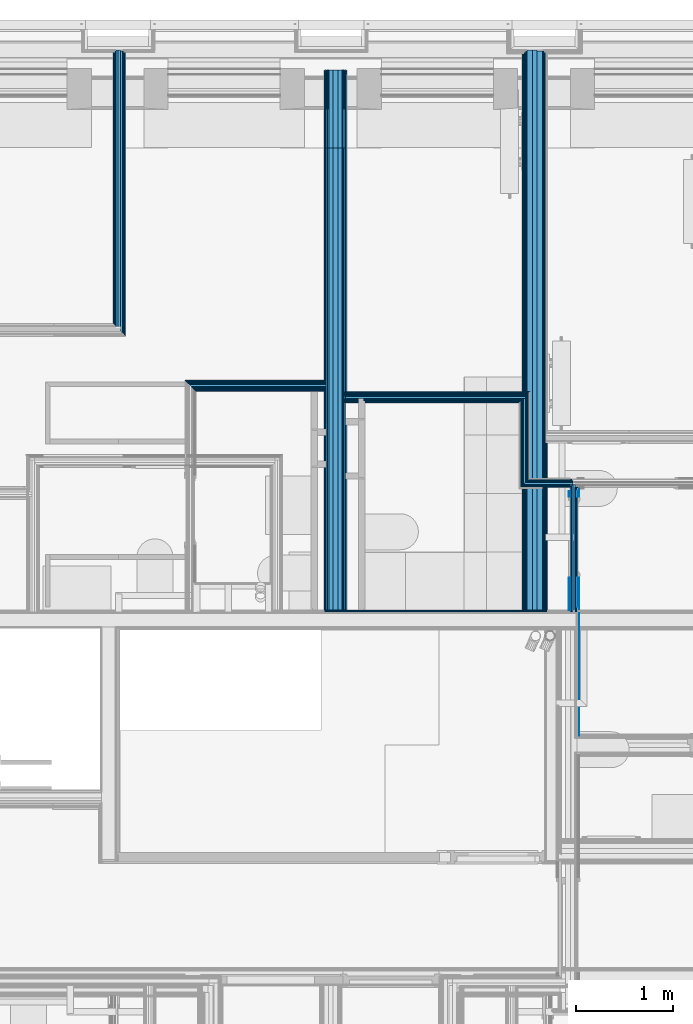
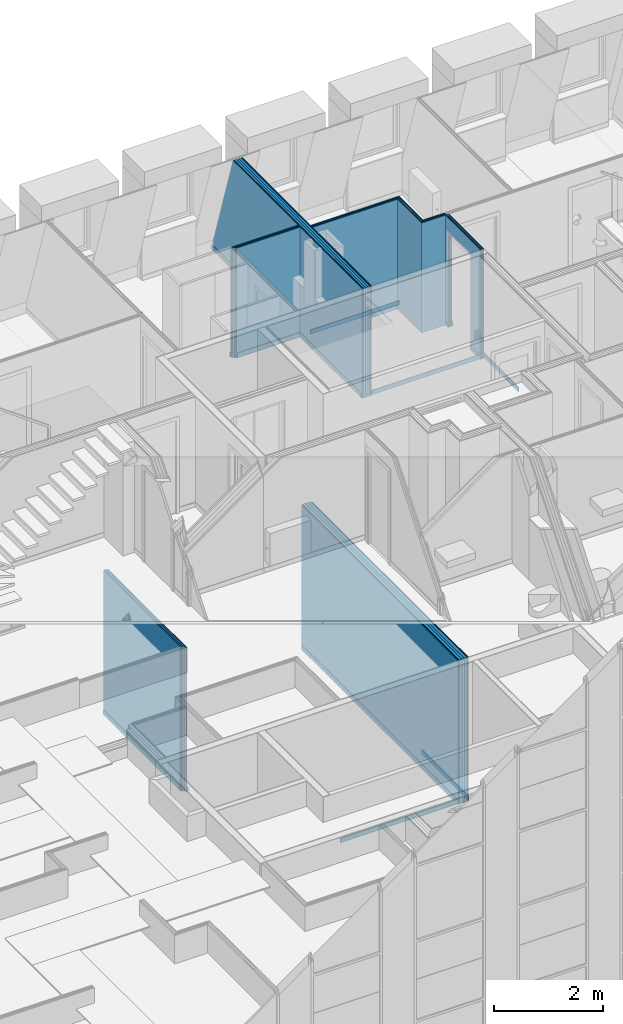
# One storey, part 32 of 169: 60 building element parts, 1 opening, 10 elements without a shape of their own.
"""IFC2X3 building model written with IfcOpenShell, lengths in metres."""

from ifc_helpers import new_model, entity, si_unit, converted_unit, derived_unit, money_unit, direction, frame, frame_2d, origin_with_axes, place, context, subcontext, project, spatial, polyline, rectangle, outline, extrude, clip, halfspace, material, type_object, element, aggregate, save


model = new_model("IFC2X3")

# Units and contexts
model_context = context("Model", 3, precision=1e-05, world=origin_with_axes(), true_north=direction((0.0, 1.0)))
body_context = subcontext(model_context, "Body", "Model", "MODEL_VIEW", scale=1.0)
ifc_project = project(units=[si_unit("LENGTHUNIT", "METRE"), si_unit("AREAUNIT", "SQUARE_METRE"), si_unit("VOLUMEUNIT", "CUBIC_METRE"), si_unit("ABSORBEDDOSEUNIT", "GRAY"), si_unit("AMOUNTOFSUBSTANCEUNIT", "MOLE"), si_unit("DOSEEQUIVALENTUNIT", "SIEVERT"), si_unit("ELECTRICCAPACITANCEUNIT", "FARAD"), si_unit("ELECTRICCHARGEUNIT", "COULOMB"), si_unit("ELECTRICCONDUCTANCEUNIT", "SIEMENS"), si_unit("ELECTRICCURRENTUNIT", "AMPERE"), si_unit("ELECTRICRESISTANCEUNIT", "OHM"), si_unit("ELECTRICVOLTAGEUNIT", "VOLT"), si_unit("ENERGYUNIT", "JOULE"), si_unit("FORCEUNIT", "NEWTON"), si_unit("FREQUENCYUNIT", "HERTZ"), si_unit("ILLUMINANCEUNIT", "LUX"), si_unit("INDUCTANCEUNIT", "HENRY"), si_unit("LUMINOUSFLUXUNIT", "LUMEN"), si_unit("LUMINOUSINTENSITYUNIT", "CANDELA"), si_unit("MAGNETICFLUXDENSITYUNIT", "TESLA"), si_unit("MAGNETICFLUXUNIT", "WEBER"), si_unit("MASSUNIT", "GRAM"), converted_unit("PLANEANGLEUNIT", "degree", entity("IfcReal", 0.0174532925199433), si_unit("PLANEANGLEUNIT", "RADIAN"), dimensions=[0, 0, 0, 0, 0, 0, 0]), si_unit("POWERUNIT", "WATT"), si_unit("PRESSUREUNIT", "PASCAL"), si_unit("RADIOACTIVITYUNIT", "BECQUEREL"), si_unit("SOLIDANGLEUNIT", "STERADIAN"), si_unit("THERMODYNAMICTEMPERATUREUNIT", "KELVIN"), si_unit("TIMEUNIT", "SECOND"), derived_unit("ACCELERATIONUNIT", [(si_unit("LENGTHUNIT", "METRE"), 1), (si_unit("TIMEUNIT", "SECOND"), -2)]), derived_unit("ANGULARVELOCITYUNIT", [(converted_unit("PLANEANGLEUNIT", "degree", entity("IfcReal", 0.0174532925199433), si_unit("PLANEANGLEUNIT", "RADIAN"), dimensions=[0, 0, 0, 0, 0, 0, 0]), 1), (si_unit("TIMEUNIT", "SECOND"), -1)]), derived_unit("CURVATUREUNIT", [(converted_unit("PLANEANGLEUNIT", "degree", entity("IfcReal", 0.0174532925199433), si_unit("PLANEANGLEUNIT", "RADIAN"), dimensions=[0, 0, 0, 0, 0, 0, 0]), 1), (si_unit("LENGTHUNIT", "METRE"), -1)]), derived_unit("DYNAMICVISCOSITYUNIT", [(si_unit("PRESSUREUNIT", "PASCAL"), 1), (si_unit("TIMEUNIT", "SECOND"), 1)]), derived_unit("HEATFLUXDENSITYUNIT", [(si_unit("POWERUNIT", "WATT"), 1), (si_unit("LENGTHUNIT", "METRE"), -2)]), derived_unit("HEATINGVALUEUNIT", [(si_unit("ENERGYUNIT", "JOULE"), 1), (si_unit("MASSUNIT", "GRAM"), -1)]), derived_unit("INTEGERCOUNTRATEUNIT", [(si_unit("TIMEUNIT", "SECOND"), -1)]), derived_unit("IONCONCENTRATIONUNIT", [(si_unit("MASSUNIT", "GRAM"), 1), (si_unit("VOLUMEUNIT", "CUBIC_METRE"), -1)]), derived_unit("ISOTHERMALMOISTURECAPACITYUNIT", [(si_unit("VOLUMEUNIT", "CUBIC_METRE"), 1), (si_unit("MASSUNIT", "GRAM"), -1)]), derived_unit("KINEMATICVISCOSITYUNIT", [(si_unit("AREAUNIT", "SQUARE_METRE"), 1), (si_unit("TIMEUNIT", "SECOND"), -1)]), derived_unit("LINEARFORCEUNIT", [(si_unit("FORCEUNIT", "NEWTON"), 1), (si_unit("LENGTHUNIT", "METRE"), -1)]), derived_unit("LINEARMOMENTUNIT", [(si_unit("FORCEUNIT", "NEWTON"), 1), (si_unit("LENGTHUNIT", "METRE"), -1)]), derived_unit("LINEARSTIFFNESSUNIT", [(si_unit("FORCEUNIT", "NEWTON"), 1), (si_unit("LENGTHUNIT", "METRE"), -1)]), derived_unit("LINEARVELOCITYUNIT", [(si_unit("LENGTHUNIT", "METRE"), 1), (si_unit("TIMEUNIT", "SECOND"), -1)]), derived_unit("LUMINOUSINTENSITYDISTRIBUTIONUNIT", [(si_unit("LUMINOUSINTENSITYUNIT", "CANDELA"), 1), (si_unit("LUMINOUSFLUXUNIT", "LUMEN"), -1)]), derived_unit("MASSDENSITYUNIT", [(si_unit("MASSUNIT", "GRAM"), 1), (si_unit("VOLUMEUNIT", "CUBIC_METRE"), -1)]), derived_unit("MASSFLOWRATEUNIT", [(si_unit("MASSUNIT", "GRAM"), 1), (si_unit("TIMEUNIT", "SECOND"), -1)]), derived_unit("MASSPERLENGTHUNIT", [(si_unit("MASSUNIT", "GRAM"), 1), (si_unit("LENGTHUNIT", "METRE"), -1)]), derived_unit("MODULUSOFELASTICITYUNIT", [(si_unit("FORCEUNIT", "NEWTON"), 1), (si_unit("AREAUNIT", "SQUARE_METRE"), -1)]), derived_unit("MODULUSOFLINEARSUBGRADEREACTIONUNIT", [(si_unit("FORCEUNIT", "NEWTON"), 1), (si_unit("LENGTHUNIT", "METRE"), -2)]), derived_unit("MODULUSOFROTATIONALSUBGRADEREACTIONUNIT", [(si_unit("FORCEUNIT", "NEWTON"), 1), (si_unit("LENGTHUNIT", "METRE"), 1)]), derived_unit("MODULUSOFSUBGRADEREACTIONUNIT", [(si_unit("FORCEUNIT", "NEWTON"), 1), (si_unit("VOLUMEUNIT", "CUBIC_METRE"), -1)]), derived_unit("MOISTUREDIFFUSIVITYUNIT", [(si_unit("VOLUMEUNIT", "CUBIC_METRE"), 1), (si_unit("TIMEUNIT", "SECOND"), -1)]), derived_unit("MOLECULARWEIGHTUNIT", [(si_unit("MASSUNIT", "GRAM"), 1), (si_unit("AMOUNTOFSUBSTANCEUNIT", "MOLE"), -1)]), derived_unit("PLANARFORCEUNIT", [(si_unit("FORCEUNIT", "NEWTON"), 1), (si_unit("LENGTHUNIT", "METRE"), -2)]), derived_unit("ROTATIONALFREQUENCYUNIT", [(si_unit("TIMEUNIT", "SECOND"), -1)]), derived_unit("ROTATIONALMASSUNIT", [(si_unit("MASSUNIT", "GRAM"), 1), (si_unit("LENGTHUNIT", "METRE"), 2)]), derived_unit("ROTATIONALSTIFFNESSUNIT", [(si_unit("FORCEUNIT", "NEWTON"), 1), (si_unit("LENGTHUNIT", "METRE"), 1), (converted_unit("PLANEANGLEUNIT", "degree", entity("IfcReal", 0.0174532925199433), si_unit("PLANEANGLEUNIT", "RADIAN"), dimensions=[0, 0, 0, 0, 0, 0, 0]), -1)]), derived_unit("SECTIONAREAINTEGRALUNIT", [(si_unit("LENGTHUNIT", "METRE"), 5)]), derived_unit("SECTIONMODULUSUNIT", [(si_unit("LENGTHUNIT", "METRE"), 3)]), derived_unit("SHEARMODULUSUNIT", [(si_unit("FORCEUNIT", "NEWTON"), 1), (si_unit("AREAUNIT", "SQUARE_METRE"), -1)]), derived_unit("SOUNDPOWERUNIT", [(si_unit("ENERGYUNIT", "JOULE"), 1), (si_unit("TIMEUNIT", "SECOND"), -1)]), derived_unit("SPECIFICHEATCAPACITYUNIT", [(si_unit("FORCEUNIT", "NEWTON"), 1), (si_unit("MASSUNIT", "GRAM"), -1), (si_unit("THERMODYNAMICTEMPERATUREUNIT", "KELVIN"), -1)]), derived_unit("TEMPERATUREGRADIENTUNIT", [(si_unit("THERMODYNAMICTEMPERATUREUNIT", "KELVIN"), 1), (si_unit("LENGTHUNIT", "METRE"), -1)]), derived_unit("THERMALADMITTANCEUNIT", [(si_unit("POWERUNIT", "WATT"), 1), (si_unit("AREAUNIT", "SQUARE_METRE"), -1), (si_unit("THERMODYNAMICTEMPERATUREUNIT", "KELVIN"), -1)]), derived_unit("THERMALCONDUCTANCEUNIT", [(si_unit("POWERUNIT", "WATT"), 1), (si_unit("LENGTHUNIT", "METRE"), -1), (si_unit("THERMODYNAMICTEMPERATUREUNIT", "KELVIN"), -1)]), derived_unit("THERMALEXPANSIONCOEFFICIENTUNIT", [(si_unit("THERMODYNAMICTEMPERATUREUNIT", "KELVIN"), -1)]), derived_unit("THERMALRESISTANCEUNIT", [(si_unit("AREAUNIT", "SQUARE_METRE"), 1), (si_unit("POWERUNIT", "WATT"), -1)]), derived_unit("THERMALTRANSMITTANCEUNIT", [(si_unit("POWERUNIT", "WATT"), 1), (si_unit("AREAUNIT", "SQUARE_METRE"), -1), (si_unit("THERMODYNAMICTEMPERATUREUNIT", "KELVIN"), -1)]), derived_unit("TORQUEUNIT", [(si_unit("FORCEUNIT", "NEWTON"), 1), (si_unit("LENGTHUNIT", "METRE"), 1)]), derived_unit("VAPORPERMEABILITYUNIT", [(si_unit("MASSUNIT", "GRAM"), 1), (si_unit("TIMEUNIT", "SECOND"), -1)]), derived_unit("VOLUMETRICFLOWRATEUNIT", [(si_unit("VOLUMEUNIT", "CUBIC_METRE"), 1), (si_unit("TIMEUNIT", "SECOND"), -1)]), derived_unit("WARPINGCONSTANTUNIT", [(si_unit("LENGTHUNIT", "METRE"), 6)]), derived_unit("WARPINGMOMENTUNIT", [(si_unit("FORCEUNIT", "NEWTON"), 1), (si_unit("LENGTHUNIT", "METRE"), 2)]), money_unit("GBP")], contexts=[model_context])

# Site, building, storey
site_placement = place(None, origin_with_axes())
site = spatial("IfcSite", under=ifc_project, at=site_placement, Name="Site", CompositionType="ELEMENT")
building_placement = place(site_placement, origin_with_axes())
building = spatial("IfcBuilding", under=site, at=building_placement, Name="Building01", CompositionType="ELEMENT")
storey_placement = place(building_placement, frame((0.0, 0.0, 5.15), z_axis=(0.0, 0.0, 1.0), x_axis=(1.0, 0.0, 0.0)))
storey = spatial("IfcBuildingStorey", under=building, at=storey_placement, Name="1F", CompositionType="ELEMENT", Elevation=5.15)

# Wall, building element part
wall_type_1 = type_object("IfcWallType", Name="SHE_A-Walls_Type03a_BlockworkWall_170mm", PredefinedType="NOTDEFINED")
wall_1_placement = place(storey_placement, frame((17.985, 8.805, 0.0), z_axis=(0.0, 0.0, 1.0), x_axis=(-1.0, 0.0, 0.0)))
wall_1 = element("IfcWall", 1, at=wall_1_placement, inside=storey, type_object=wall_type_1, Name="4B", ObjectType="SHE_A-Walls_Type03a_BlockworkWall_170mm")
ifc_material_1 = material(Name="A_BSUK_Walls_Timber")
building_element_part_1_placement = place(wall_1_placement, origin_with_axes())
building_element_part_1 = element("IfcBuildingElementPart", 2, at=building_element_part_1_placement, material=ifc_material_1, Name="2", context=body_context, shape_type="SweptSolid", body=[
    extrude(rectangle(XDim=2.494547, YDim=0.015, at=frame_2d((3.749142, -0.0225), x_axis=(-1.0, 0.0))), frame((0.0, 0.0, 0.015), z_axis=(0.0, 0.0, 1.0), x_axis=(1.0, 0.0, 0.0)), (0.0, 0.0, 1.0), 0.1),
])
aggregate(wall_1, [building_element_part_1])

# Wall, building element parts
wall_type_2 = type_object("IfcWallType", Name="SHE_A-Walls_Type01c_Partywall_225mm_twin_tall", PredefinedType="NOTDEFINED")
wall_2_placement = place(storey_placement, frame((15.620132, 8.82, 0.0), z_axis=(0.0, 0.0, 1.0), x_axis=(0.0, 1.0, 0.0)))
wall_2 = element("IfcWall", 3, at=wall_2_placement, inside=storey, type_object=wall_type_2, Name="1C", ObjectType="SHE_A-Walls_Type01c_Partywall_225mm_twin_tall")
placement_1 = place(wall_2_placement, origin_with_axes())
building_element_part_2 = element("IfcBuildingElementPart", 4, at=placement_1, material=ifc_material_1, Name="1", context=body_context, shape_type="SweptSolid", body=[
    extrude(rectangle(XDim=1.735, YDim=0.015, at=frame_2d((0.8675, -0.0955), x_axis=(-1.0, 0.0))), frame((0.0, 0.0, 0.015), z_axis=(0.0, 0.0, 1.0), x_axis=(1.0, 0.0, 0.0)), (0.0, 0.0, 1.0), 0.1),
])
ifc_material_2 = material(Name="A_BSUK_WallInternal_Finishes_Plasterboard")
building_element_part_3 = element("IfcBuildingElementPart", 5, at=placement_1, material=ifc_material_2, Name="3", context=body_context, shape_type="SweptSolid", body=[
    extrude(rectangle(XDim=5.747, YDim=0.015, at=frame_2d((2.8735, -0.0805), x_axis=(-1.0, 0.0))), origin_with_axes(), (0.0, 0.0, 1.0), 3.24),
])
building_element_part_4 = element("IfcBuildingElementPart", 6, at=placement_1, material=ifc_material_2, Name="4", context=body_context, shape_type="SweptSolid", body=[
    extrude(rectangle(XDim=5.762, YDim=0.015, at=frame_2d((2.881, -0.0655), x_axis=(-1.0, 0.0))), origin_with_axes(), (0.0, 0.0, 1.0), 3.24),
])
ifc_material_3 = material(Name="Air Cavity")
building_element_part_5 = element("IfcBuildingElementPart", 7, at=placement_1, material=ifc_material_3, Name="5", context=body_context, shape_type="SweptSolid", body=[
    extrude(rectangle(XDim=5.762, YDim=0.058, at=frame_2d((2.881, -0.029), x_axis=(-1.0, 0.0))), origin_with_axes(), (0.0, 0.0, 1.0), 3.24),
])
ifc_material_4 = material(Name="A_BSUK_Insulation")
building_element_part_6 = element("IfcBuildingElementPart", 8, at=placement_1, material=ifc_material_4, Name="6", context=body_context, shape_type="SweptSolid", body=[
    extrude(rectangle(XDim=5.774, YDim=0.05, at=frame_2d((2.887, 0.025), x_axis=(-1.0, 0.0))), origin_with_axes(), (0.0, 0.0, 1.0), 3.24),
])
building_element_part_7 = element("IfcBuildingElementPart", 9, at=placement_1, material=ifc_material_3, Name="7", context=body_context, shape_type="SweptSolid", body=[
    extrude(rectangle(XDim=5.774, YDim=0.057, at=frame_2d((2.887, 0.0785), x_axis=(-1.0, 0.0))), origin_with_axes(), (0.0, 0.0, 1.0), 3.24),
])
building_element_part_8 = element("IfcBuildingElementPart", 10, at=placement_1, material=ifc_material_2, Name="8", context=body_context, shape_type="SweptSolid", body=[
    extrude(rectangle(XDim=5.762, YDim=0.015, at=frame_2d((2.881, 0.1145), x_axis=(-1.0, 0.0))), origin_with_axes(), (0.0, 0.0, 1.0), 3.24),
])
building_element_part_9 = element("IfcBuildingElementPart", 11, at=placement_1, material=ifc_material_2, Name="9", context=body_context, shape_type="SweptSolid", body=[
    extrude(rectangle(XDim=5.747, YDim=0.015, at=frame_2d((2.8735, 0.1295), x_axis=(-1.0, 0.0))), origin_with_axes(), (0.0, 0.0, 1.0), 3.24),
])
building_element_part_10 = element("IfcBuildingElementPart", 12, at=placement_1, material=ifc_material_1, Name="10", context=body_context, shape_type="SweptSolid", body=[
    extrude(rectangle(XDim=5.717, YDim=0.015, at=frame_2d((2.8735, 0.1445), x_axis=(-1.0, 0.0))), frame((0.0, 0.0, 0.015), z_axis=(0.0, 0.0, 1.0), x_axis=(1.0, 0.0, 0.0)), (0.0, 0.0, 1.0), 0.1),
])
aggregate(wall_2, [building_element_part_2, building_element_part_3, building_element_part_4, building_element_part_5, building_element_part_6, building_element_part_7, building_element_part_8, building_element_part_9, building_element_part_10])

wall_type_3 = type_object("IfcWallType", Name="SHE_A-Walls_Type05a_Partition_95mm_tall", PredefinedType="NOTDEFINED")
wall_3_placement = place(storey_placement, frame((11.34, 11.728124, 0.0), z_axis=(0.0, 0.0, 1.0), x_axis=(0.0, 1.0, 0.0)))
wall_3 = element("IfcWall", 13, at=wall_3_placement, inside=storey, type_object=wall_type_3, Name="5A", ObjectType="SHE_A-Walls_Type05a_Partition_95mm_tall")
placement_2 = place(wall_3_placement, origin_with_axes())
building_element_part_11 = element("IfcBuildingElementPart", 14, at=placement_2, material=ifc_material_1, Name="1", context=body_context, shape_type="SweptSolid", body=[
    extrude(outline(polyline([(2.838876, -0.035), (-0.06, -0.035), (-0.075, -0.05), (2.838876, -0.05), (2.838876, -0.035)])), frame((0.0, 0.0, 0.015), z_axis=(0.0, 0.0, 1.0), x_axis=(1.0, 0.0, 0.0)), (0.0, 0.0, 1.0), 0.1),
])
building_element_part_12 = element("IfcBuildingElementPart", 15, at=placement_2, material=ifc_material_2, Name="2", context=body_context, shape_type="SweptSolid", body=[
    extrude(outline(polyline([(2.853876, -0.023), (-0.048, -0.023), (-0.06, -0.035), (2.853876, -0.035), (2.853876, -0.023)])), origin_with_axes(), (0.0, 0.0, 1.0), 3.24),
])
building_element_part_13 = element("IfcBuildingElementPart", 16, at=placement_2, material=ifc_material_3, Name="3", context=body_context, shape_type="SweptSolid", body=[
    extrude(outline(polyline([(2.853876, 0.0), (-0.025, 0.0), (-0.048, -0.023), (2.853876, -0.023), (2.853876, 0.0)])), origin_with_axes(), (0.0, 0.0, 1.0), 3.24),
])
building_element_part_14 = element("IfcBuildingElementPart", 17, at=placement_2, material=ifc_material_4, Name="4", context=body_context, shape_type="SweptSolid", body=[
    extrude(rectangle(XDim=2.865876, YDim=0.025, at=frame_2d((1.432938, 0.0125), x_axis=(-1.0, 0.0))), origin_with_axes(), (0.0, 0.0, 1.0), 3.24),
])
building_element_part_15 = element("IfcBuildingElementPart", 18, at=placement_2, material=ifc_material_3, Name="5", context=body_context, shape_type="SweptSolid", body=[
    extrude(rectangle(XDim=2.865876, YDim=0.023, at=frame_2d((1.432938, 0.0365), x_axis=(-1.0, 0.0))), origin_with_axes(), (0.0, 0.0, 1.0), 3.24),
])
building_element_part_16 = element("IfcBuildingElementPart", 19, at=placement_2, material=ifc_material_2, Name="6", context=body_context, shape_type="SweptSolid", body=[
    extrude(outline(polyline([(2.853876, 0.06), (0.035, 0.06), (0.023, 0.048), (2.853876, 0.048), (2.853876, 0.06)])), origin_with_axes(), (0.0, 0.0, 1.0), 3.24),
])
building_element_part_17 = element("IfcBuildingElementPart", 20, at=placement_2, material=ifc_material_1, Name="7", context=body_context, shape_type="SweptSolid", body=[
    extrude(outline(polyline([(2.838876, 0.075), (0.05, 0.075), (0.035, 0.06), (2.838876, 0.06), (2.838876, 0.075)])), frame((0.0, 0.0, 0.015), z_axis=(0.0, 0.0, 1.0), x_axis=(1.0, 0.0, 0.0)), (0.0, 0.0, 1.0), 0.1),
])
aggregate(wall_3, [building_element_part_11, building_element_part_12, building_element_part_13, building_element_part_14, building_element_part_15, building_element_part_16, building_element_part_17])

wall_type_4 = type_object("IfcWallType", Name="SHE_A-Walls_Type05b_Partition_80mm", PredefinedType="NOTDEFINED")
wall_4_placement = place(storey_placement, frame((13.45, 11.156849, 9.83), z_axis=(0.0, 0.0, 1.0), x_axis=(-1.0, 0.0, 0.0)))
wall_4 = element("IfcWall", 21, at=wall_4_placement, inside=storey, type_object=wall_type_4, Name="5B", ObjectType="SHE_A-Walls_Type05b_Partition_80mm")
placement_3 = place(wall_4_placement, origin_with_axes())
building_element_part_18 = element("IfcBuildingElementPart", 22, at=placement_3, material=ifc_material_1, Name="1", context=body_context, shape_type="SweptSolid", body=[
    extrude(outline(polyline([(1.432619, -0.027), (0.015, -0.027), (0.015, -0.042), (1.447619, -0.042), (1.432619, -0.027)])), frame((0.0, 0.0, 0.015), z_axis=(0.0, 0.0, 1.0), x_axis=(1.0, 0.0, 0.0)), (0.0, 0.0, 1.0), 0.1),
])
building_element_part_19 = element("IfcBuildingElementPart", 23, at=placement_3, material=ifc_material_2, Name="2", context=body_context, shape_type="SweptSolid", body=[
    extrude(outline(polyline([(1.417619, -0.012), (0.0, -0.012), (0.0, -0.027), (1.432619, -0.027), (1.417619, -0.012)])), origin_with_axes(), (0.0, 0.0, 1.0), 2.468),
])
building_element_part_20 = element("IfcBuildingElementPart", 24, at=placement_3, material=ifc_material_3, Name="3", context=body_context, shape_type="SweptSolid", body=[
    extrude(outline(polyline([(1.405619, 0.0), (0.0, 0.0), (0.0, -0.012), (1.417619, -0.012), (1.405619, 0.0)])), origin_with_axes(), (0.0, 0.0, 1.0), 2.468),
])
building_element_part_21 = element("IfcBuildingElementPart", 25, at=placement_3, material=ifc_material_4, Name="4", context=body_context, shape_type="SweptSolid", body=[
    extrude(outline(polyline([(1.380619, 0.025), (0.0, 0.025), (0.0, 0.0), (1.405619, 0.0), (1.380619, 0.025)])), origin_with_axes(), (0.0, 0.0, 1.0), 2.468),
])
building_element_part_22 = element("IfcBuildingElementPart", 26, at=placement_3, material=ifc_material_3, Name="5", context=body_context, shape_type="SweptSolid", body=[
    extrude(outline(polyline([(1.367619, 0.038), (0.0, 0.038), (0.0, 0.025), (1.380619, 0.025), (1.367619, 0.038)])), origin_with_axes(), (0.0, 0.0, 1.0), 2.468),
])
building_element_part_23 = element("IfcBuildingElementPart", 27, at=placement_3, material=ifc_material_2, Name="6", context=body_context, shape_type="SweptSolid", body=[
    extrude(outline(polyline([(1.352619, 0.053), (0.0, 0.053), (0.0, 0.038), (1.367619, 0.038), (1.352619, 0.053)])), origin_with_axes(), (0.0, 0.0, 1.0), 2.468),
])
building_element_part_24 = element("IfcBuildingElementPart", 28, at=placement_3, material=ifc_material_1, Name="7", context=body_context, shape_type="SweptSolid", body=[
    extrude(outline(polyline([(1.337619, 0.068), (0.015, 0.068), (0.015, 0.053), (1.352619, 0.053), (1.337619, 0.068)])), frame((0.0, 0.0, 0.015), z_axis=(0.0, 0.0, 1.0), x_axis=(1.0, 0.0, 0.0)), (0.0, 0.0, 1.0), 0.1),
])
aggregate(wall_4, [building_element_part_18, building_element_part_19, building_element_part_20, building_element_part_21, building_element_part_22, building_element_part_23, building_element_part_24])

wall_5_placement = place(storey_placement, frame((15.476998, 10.126939, 9.83), z_axis=(0.0, 0.0, 1.0), x_axis=(1.0, 0.0, 0.0)))
wall_5 = element("IfcWall", 29, at=wall_5_placement, inside=storey, type_object=wall_type_4, Name="5B", ObjectType="SHE_A-Walls_Type05b_Partition_80mm")
placement_4 = place(wall_5_placement, origin_with_axes())
building_element_part_25 = element("IfcBuildingElementPart", 30, at=placement_4, material=ifc_material_2, Name="2", context=body_context, shape_type="SweptSolid", body=[
    extrude(outline(polyline([(0.481442, -0.012), (-0.012, -0.012), (-0.027, -0.027), (0.481442, -0.027), (0.481442, -0.012)])), origin_with_axes(), (0.0, 0.0, 1.0), 2.468),
])
building_element_part_26 = element("IfcBuildingElementPart", 31, at=placement_4, material=ifc_material_3, Name="3", context=body_context, shape_type="SweptSolid", body=[
    extrude(outline(polyline([(0.481442, 0.0), (0.0, 0.0), (-0.012, -0.012), (0.481442, -0.012), (0.481442, 0.0)])), origin_with_axes(), (0.0, 0.0, 1.0), 2.468),
])
building_element_part_27 = element("IfcBuildingElementPart", 32, at=placement_4, material=ifc_material_4, Name="4", context=body_context, shape_type="SweptSolid", body=[
    extrude(outline(polyline([(0.509442, 0.025), (0.025, 0.025), (0.0, 0.0), (0.509442, 0.0), (0.509442, 0.025)])), origin_with_axes(), (0.0, 0.0, 1.0), 2.468),
])
building_element_part_28 = element("IfcBuildingElementPart", 33, at=placement_4, material=ifc_material_3, Name="5", context=body_context, shape_type="SweptSolid", body=[
    extrude(outline(polyline([(0.509442, 0.038), (0.038, 0.038), (0.025, 0.025), (0.509442, 0.025), (0.509442, 0.038)])), origin_with_axes(), (0.0, 0.0, 1.0), 2.468),
])
building_element_part_29 = element("IfcBuildingElementPart", 34, at=placement_4, material=ifc_material_2, Name="6", context=body_context, shape_type="SweptSolid", body=[
    extrude(outline(polyline([(0.496442, 0.053), (0.053, 0.053), (0.038, 0.038), (0.496442, 0.038), (0.496442, 0.053)])), origin_with_axes(), (0.0, 0.0, 1.0), 2.468),
])
aggregate(wall_5, [building_element_part_25, building_element_part_26, building_element_part_27, building_element_part_28, building_element_part_29])

wall_type_5 = type_object("IfcWallType", Name="SHE_A-Walls_Type01d_Partywall_200mm_twin", PredefinedType="NOTDEFINED")
wall_6_placement = place(storey_placement, frame((13.575, 8.82, 9.83), z_axis=(0.0, 0.0, 1.0), x_axis=(0.0, 1.0, 0.0)))
wall_6 = element("IfcWall", 35, at=wall_6_placement, inside=storey, type_object=wall_type_5, Name="1D", ObjectType="SHE_A-Walls_Type01d_Partywall_200mm_twin")
placement_5 = place(wall_6_placement, origin_with_axes())
building_element_part_30 = element("IfcBuildingElementPart", 36, at=placement_5, material=ifc_material_1, Name="1", context=body_context, shape_type="Clipping", body=[
    clip(extrude(rectangle(XDim=5.561784, YDim=0.015, at=frame_2d((2.780892, -0.0825), x_axis=(-1.0, 0.0))), frame((0.0, 0.0, 0.015), z_axis=(0.0, 0.0, 1.0), x_axis=(1.0, 0.0, 0.0)), (0.0, 0.0, 1.0), 0.1), halfspace(frame((5.035089, 0.0, 1.636), z_axis=(-0.95105652, 0.0, -0.30901699), x_axis=(0.0, -1.0, 0.0)), True)),
])
building_element_part_31 = element("IfcBuildingElementPart", 37, at=placement_5, material=ifc_material_2, Name="2", context=body_context, shape_type="Clipping", body=[
    clip(extrude(rectangle(XDim=5.566658, YDim=0.015, at=frame_2d((2.783329, -0.0675), x_axis=(-1.0, 0.0))), origin_with_axes(), (0.0, 0.0, 1.0), 2.468), halfspace(frame((5.035089, 0.0, 1.636), z_axis=(-0.95105652, 0.0, -0.30901699), x_axis=(0.0, -1.0, 0.0)), True)),
])
building_element_part_32 = element("IfcBuildingElementPart", 38, at=placement_5, material=ifc_material_2, Name="3", context=body_context, shape_type="Clipping", body=[
    clip(extrude(rectangle(XDim=5.566658, YDim=0.015, at=frame_2d((2.783329, -0.0525), x_axis=(-1.0, 0.0))), origin_with_axes(), (0.0, 0.0, 1.0), 2.468), halfspace(frame((5.035089, 0.0, 1.636), z_axis=(-0.95105652, 0.0, -0.30901699), x_axis=(0.0, -1.0, 0.0)), True)),
])
building_element_part_33 = element("IfcBuildingElementPart", 39, at=placement_5, material=ifc_material_3, Name="4", context=body_context, shape_type="Clipping", body=[
    clip(extrude(rectangle(XDim=5.566658, YDim=0.045, at=frame_2d((2.783329, -0.0225), x_axis=(-1.0, 0.0))), origin_with_axes(), (0.0, 0.0, 1.0), 2.468), halfspace(frame((5.035089, 0.0, 1.636), z_axis=(-0.95105652, 0.0, -0.30901699), x_axis=(0.0, -1.0, 0.0)), True)),
])
building_element_part_34 = element("IfcBuildingElementPart", 40, at=placement_5, material=ifc_material_4, Name="5", context=body_context, shape_type="Clipping", body=[
    clip(extrude(rectangle(XDim=5.566658, YDim=0.05, at=frame_2d((2.783329, 0.025), x_axis=(-1.0, 0.0))), origin_with_axes(), (0.0, 0.0, 1.0), 2.468), halfspace(frame((5.035089, 0.0, 1.636), z_axis=(-0.95105652, 0.0, -0.30901699), x_axis=(0.0, -1.0, 0.0)), True)),
])
building_element_part_35 = element("IfcBuildingElementPart", 41, at=placement_5, material=ifc_material_3, Name="6", context=body_context, shape_type="Clipping", body=[
    clip(extrude(rectangle(XDim=5.566658, YDim=0.045, at=frame_2d((2.783329, 0.0725), x_axis=(-1.0, 0.0))), origin_with_axes(), (0.0, 0.0, 1.0), 2.468), halfspace(frame((5.035089, 0.0, 1.636), z_axis=(-0.95105652, 0.0, -0.30901699), x_axis=(0.0, -1.0, 0.0)), True)),
])
building_element_part_36 = element("IfcBuildingElementPart", 42, at=placement_5, material=ifc_material_2, Name="7", context=body_context, shape_type="Clipping", body=[
    clip(extrude(rectangle(XDim=5.566658, YDim=0.015, at=frame_2d((2.783329, 0.1025), x_axis=(-1.0, 0.0))), origin_with_axes(), (0.0, 0.0, 1.0), 2.468), halfspace(frame((5.035089, 0.0, 1.636), z_axis=(-0.95105652, 0.0, -0.30901699), x_axis=(0.0, -1.0, 0.0)), True)),
])
building_element_part_37 = element("IfcBuildingElementPart", 43, at=placement_5, material=ifc_material_2, Name="8", context=body_context, shape_type="Clipping", body=[
    clip(extrude(rectangle(XDim=5.566658, YDim=0.015, at=frame_2d((2.783329, 0.1175), x_axis=(-1.0, 0.0))), origin_with_axes(), (0.0, 0.0, 1.0), 2.468), halfspace(frame((5.035089, 0.0, 1.636), z_axis=(-0.95105652, 0.0, -0.30901699), x_axis=(0.0, -1.0, 0.0)), True)),
])
building_element_part_38 = element("IfcBuildingElementPart", 44, at=placement_5, material=ifc_material_1, Name="9", context=body_context, shape_type="SweptSolid", body=[
    extrude(rectangle(XDim=2.244677, YDim=0.015, at=frame_2d((1.161511, 0.1325), x_axis=(-1.0, 0.0))), frame((0.0, 0.0, 0.015), z_axis=(0.0, 0.0, 1.0), x_axis=(1.0, 0.0, 0.0)), (0.0, 0.0, 1.0), 0.1),
])
building_element_part_39 = element("IfcBuildingElementPart", 45, at=placement_5, material=ifc_material_1, Name="10", context=body_context, shape_type="Clipping", body=[
    clip(extrude(rectangle(XDim=5.561784, YDim=0.015, at=frame_2d((2.780892, 0.1325), x_axis=(-1.0, 0.0))), frame((0.0, 0.0, 0.015), z_axis=(0.0, 0.0, 1.0), x_axis=(1.0, 0.0, 0.0)), (0.0, 0.0, 1.0), 0.1), halfspace(frame((5.035089, 0.0, 1.636), z_axis=(-0.95105652, 0.0, -0.30901699), x_axis=(0.0, -1.0, 0.0)), True)),
])
aggregate(wall_6, [building_element_part_30, building_element_part_31, building_element_part_32, building_element_part_33, building_element_part_34, building_element_part_35, building_element_part_36, building_element_part_37, building_element_part_38, building_element_part_39])

# Wall, opening, building element parts
wall_7_placement = place(storey_placement, frame((16.01144, 8.82, 9.83), z_axis=(0.0, 0.0, 1.0), x_axis=(0.0, 1.0, 0.0)))
wall_7 = element("IfcWall", 46, at=wall_7_placement, inside=storey, type_object=wall_type_4, Name="5B", ObjectType="SHE_A-Walls_Type05b_Partition_80mm")
opening_placement = place(wall_7_placement, frame((0.349939, -0.042, 0.0), z_axis=(0.0, 0.0, 1.0), x_axis=(1.0, 0.0, 0.0)))
element("IfcOpeningElement", 47, at=opening_placement, cuts=wall_7, Name="Opening", ObjectType="Opening", context=body_context, shape_type="SweptSolid", body=[
    extrude(rectangle(XDim=2.142, YDim=0.834, at=frame_2d((-0.417, 1.071), x_axis=(0.0, -1.0))), frame((0.0, 0.0, 0.0), z_axis=(0.0, 1.0, 0.0), x_axis=(-1.0, 0.0, 0.0)), (0.0, 0.0, 1.0), 0.11),
])
placement_6 = place(wall_7_placement, origin_with_axes())
building_element_part_40 = element("IfcBuildingElementPart", 48, at=placement_6, material=ifc_material_1, Name="1", context=body_context, shape_type="SweptSolid", body=[
    extrude(rectangle(XDim=1.185147, YDim=0.015, at=frame_2d((0.644569, -0.0345), x_axis=(-1.0, 0.0))), frame((0.0, 0.0, 0.015), z_axis=(0.0, 0.0, 1.0), x_axis=(1.0, 0.0, 0.0)), (0.0, 0.0, 1.0), 0.1),
])
building_element_part_41 = element("IfcBuildingElementPart", 49, at=placement_6, material=ifc_material_1, Name="2", context=body_context, shape_type="SweptSolid", body=[
    extrude(rectangle(XDim=2.535024, YDim=0.015, at=frame_2d((-0.002573, -0.0345), x_axis=(-1.0, 0.0))), frame((0.0, 0.0, 0.015), z_axis=(0.0, 0.0, 1.0), x_axis=(1.0, 0.0, 0.0)), (0.0, 0.0, 1.0), 0.1),
])
building_element_part_42 = element("IfcBuildingElementPart", 50, at=placement_6, material=ifc_material_2, Name="3", context=body_context, shape_type="SweptSolid", body=[
    extrude(rectangle(XDim=1.279939, YDim=0.015, at=frame_2d((0.63997, -0.0195), x_axis=(-1.0, 0.0))), origin_with_axes(), (0.0, 0.0, 1.0), 2.468),
])
building_element_part_43 = element("IfcBuildingElementPart", 51, at=placement_6, material=ifc_material_3, Name="4", context=body_context, shape_type="SweptSolid", body=[
    extrude(rectangle(XDim=1.279939, YDim=0.012, at=frame_2d((0.63997, -0.006), x_axis=(-1.0, 0.0))), origin_with_axes(), (0.0, 0.0, 1.0), 2.468),
])
building_element_part_44 = element("IfcBuildingElementPart", 52, at=placement_6, material=ifc_material_4, Name="5", context=body_context, shape_type="SweptSolid", body=[
    extrude(rectangle(XDim=1.306939, YDim=0.025, at=frame_2d((0.65347, 0.0125), x_axis=(-1.0, 0.0))), origin_with_axes(), (0.0, 0.0, 1.0), 2.468),
])
building_element_part_45 = element("IfcBuildingElementPart", 53, at=placement_6, material=ifc_material_3, Name="6", context=body_context, shape_type="SweptSolid", body=[
    extrude(rectangle(XDim=1.306939, YDim=0.013, at=frame_2d((0.65347, 0.0315), x_axis=(-1.0, 0.0))), origin_with_axes(), (0.0, 0.0, 1.0), 2.468),
])
building_element_part_46 = element("IfcBuildingElementPart", 54, at=placement_6, material=ifc_material_2, Name="7", context=body_context, shape_type="SweptSolid", body=[
    extrude(rectangle(XDim=1.294939, YDim=0.015, at=frame_2d((0.64747, 0.0455), x_axis=(-1.0, 0.0))), origin_with_axes(), (0.0, 0.0, 1.0), 2.468),
])
building_element_part_47 = element("IfcBuildingElementPart", 55, at=placement_6, material=ifc_material_1, Name="8", context=body_context, shape_type="SweptSolid", body=[
    extrude(rectangle(XDim=1.222142, YDim=0.015, at=frame_2d((0.626071, 0.0605), x_axis=(-1.0, 0.0))), frame((0.0, 0.0, 0.015), z_axis=(0.0, 0.0, 1.0), x_axis=(1.0, 0.0, 0.0)), (0.0, 0.0, 1.0), 0.1),
])
aggregate(wall_7, [building_element_part_40, building_element_part_41, building_element_part_42, building_element_part_43, building_element_part_44, building_element_part_45, building_element_part_46, building_element_part_47])

# Wall, building element part
wall_8_placement = place(storey_placement, frame((9.215, 8.665, 9.83), z_axis=(0.0, 0.0, 1.0), x_axis=(1.0, 0.0, 0.0)))
wall_8 = element("IfcWall", 56, at=wall_8_placement, inside=storey, type_object=wall_type_1, Name="4B", ObjectType="SHE_A-Walls_Type03a_BlockworkWall_170mm")
building_element_part_48_placement = place(wall_8_placement, origin_with_axes())
building_element_part_48 = element("IfcBuildingElementPart", 57, at=building_element_part_48_placement, material=ifc_material_1, Name="7", context=body_context, shape_type="SweptSolid", body=[
    extrude(rectangle(XDim=2.29344, YDim=0.015, at=frame_2d((5.59672, 0.1625), x_axis=(-1.0, 0.0))), frame((0.0, 0.0, 0.015), z_axis=(0.0, 0.0, 1.0), x_axis=(1.0, 0.0, 0.0)), (0.0, 0.0, 1.0), 0.1),
])
aggregate(wall_8, [building_element_part_48])

# Wall, building element parts
wall_9_placement = place(storey_placement, frame((15.501998, 11.036789, 9.83), z_axis=(0.0, 0.0, 1.0), x_axis=(-1.0, 0.0, 0.0)))
wall_9 = element("IfcWall", 58, at=wall_9_placement, inside=storey, type_object=wall_type_4, Name="5B", ObjectType="SHE_A-Walls_Type05b_Partition_80mm")
placement_7 = place(wall_9_placement, origin_with_axes())
building_element_part_49 = element("IfcBuildingElementPart", 59, at=placement_7, material=ifc_material_1, Name="1", context=body_context, shape_type="SweptSolid", body=[
    extrude(outline(polyline([(1.851998, -0.027), (-0.028, -0.027), (-0.043, -0.042), (1.851998, -0.042), (1.851998, -0.027)])), frame((0.0, 0.0, 0.015), z_axis=(0.0, 0.0, 1.0), x_axis=(1.0, 0.0, 0.0)), (0.0, 0.0, 1.0), 0.1),
])
building_element_part_50 = element("IfcBuildingElementPart", 60, at=placement_7, material=ifc_material_2, Name="2", context=body_context, shape_type="SweptSolid", body=[
    extrude(outline(polyline([(1.851998, -0.012), (-0.013, -0.012), (-0.028, -0.027), (1.851998, -0.027), (1.851998, -0.012)])), origin_with_axes(), (0.0, 0.0, 1.0), 2.468),
])
building_element_part_51 = element("IfcBuildingElementPart", 61, at=placement_7, material=ifc_material_3, Name="3", context=body_context, shape_type="SweptSolid", body=[
    extrude(outline(polyline([(1.851998, 0.0), (-0.001, 0.0), (-0.013, -0.012), (1.851998, -0.012), (1.851998, 0.0)])), origin_with_axes(), (0.0, 0.0, 1.0), 2.468),
])
building_element_part_52 = element("IfcBuildingElementPart", 62, at=placement_7, material=ifc_material_4, Name="4", context=body_context, shape_type="SweptSolid", body=[
    extrude(rectangle(XDim=1.851998, YDim=0.025, at=frame_2d((0.925999, 0.0125), x_axis=(-1.0, 0.0))), origin_with_axes(), (0.0, 0.0, 1.0), 2.468),
])
building_element_part_53 = element("IfcBuildingElementPart", 63, at=placement_7, material=ifc_material_3, Name="5", context=body_context, shape_type="SweptSolid", body=[
    extrude(rectangle(XDim=1.851998, YDim=0.013, at=frame_2d((0.925999, 0.0315), x_axis=(-1.0, 0.0))), origin_with_axes(), (0.0, 0.0, 1.0), 2.468),
])
building_element_part_54 = element("IfcBuildingElementPart", 64, at=placement_7, material=ifc_material_2, Name="6", context=body_context, shape_type="SweptSolid", body=[
    extrude(outline(polyline([(1.851998, 0.053), (0.052, 0.053), (0.037, 0.038), (1.851998, 0.038), (1.851998, 0.053)])), origin_with_axes(), (0.0, 0.0, 1.0), 2.468),
])
building_element_part_55 = element("IfcBuildingElementPart", 65, at=placement_7, material=ifc_material_1, Name="7", context=body_context, shape_type="SweptSolid", body=[
    extrude(outline(polyline([(1.851998, 0.068), (0.067, 0.068), (0.052, 0.053), (1.851998, 0.053), (1.851998, 0.068)])), frame((0.0, 0.0, 0.015), z_axis=(0.0, 0.0, 1.0), x_axis=(1.0, 0.0, 0.0)), (0.0, 0.0, 1.0), 0.1),
])
aggregate(wall_9, [building_element_part_49, building_element_part_50, building_element_part_51, building_element_part_52, building_element_part_53, building_element_part_54, building_element_part_55])

wall_10_placement = place(storey_placement, frame((15.476998, 11.011789, 9.83), z_axis=(0.0, 0.0, 1.0), x_axis=(0.0, -1.0, 0.0)))
wall_10 = element("IfcWall", 66, at=wall_10_placement, inside=storey, type_object=wall_type_4, Name="5B", ObjectType="SHE_A-Walls_Type05b_Partition_80mm")
placement_8 = place(wall_10_placement, origin_with_axes())
building_element_part_56 = element("IfcBuildingElementPart", 67, at=placement_8, material=ifc_material_2, Name="2", context=body_context, shape_type="SweptSolid", body=[
    extrude(outline(polyline([(0.896849, -0.012), (0.013, -0.012), (0.028, -0.027), (0.911849, -0.027), (0.896849, -0.012)])), origin_with_axes(), (0.0, 0.0, 1.0), 2.468),
])
building_element_part_57 = element("IfcBuildingElementPart", 68, at=placement_8, material=ifc_material_3, Name="3", context=body_context, shape_type="SweptSolid", body=[
    extrude(outline(polyline([(0.884849, 0.0), (0.001, 0.0), (0.013, -0.012), (0.896849, -0.012), (0.884849, 0.0)])), origin_with_axes(), (0.0, 0.0, 1.0), 2.468),
])
building_element_part_58 = element("IfcBuildingElementPart", 69, at=placement_8, material=ifc_material_4, Name="4", context=body_context, shape_type="SweptSolid", body=[
    extrude(outline(polyline([(0.859849, 0.025), (0.0, 0.025), (0.0, 0.0), (0.884849, 0.0), (0.859849, 0.025)])), origin_with_axes(), (0.0, 0.0, 1.0), 2.468),
])
building_element_part_59 = element("IfcBuildingElementPart", 70, at=placement_8, material=ifc_material_3, Name="5", context=body_context, shape_type="SweptSolid", body=[
    extrude(outline(polyline([(0.846849, 0.038), (0.0, 0.038), (0.0, 0.025), (0.859849, 0.025), (0.846849, 0.038)])), origin_with_axes(), (0.0, 0.0, 1.0), 2.468),
])
building_element_part_60 = element("IfcBuildingElementPart", 71, at=placement_8, material=ifc_material_2, Name="6", context=body_context, shape_type="SweptSolid", body=[
    extrude(outline(polyline([(0.831849, 0.053), (-0.052, 0.053), (-0.037, 0.038), (0.846849, 0.038), (0.831849, 0.053)])), origin_with_axes(), (0.0, 0.0, 1.0), 2.468),
])
aggregate(wall_10, [building_element_part_56, building_element_part_57, building_element_part_58, building_element_part_59, building_element_part_60])

save(model, "model.ifc")
